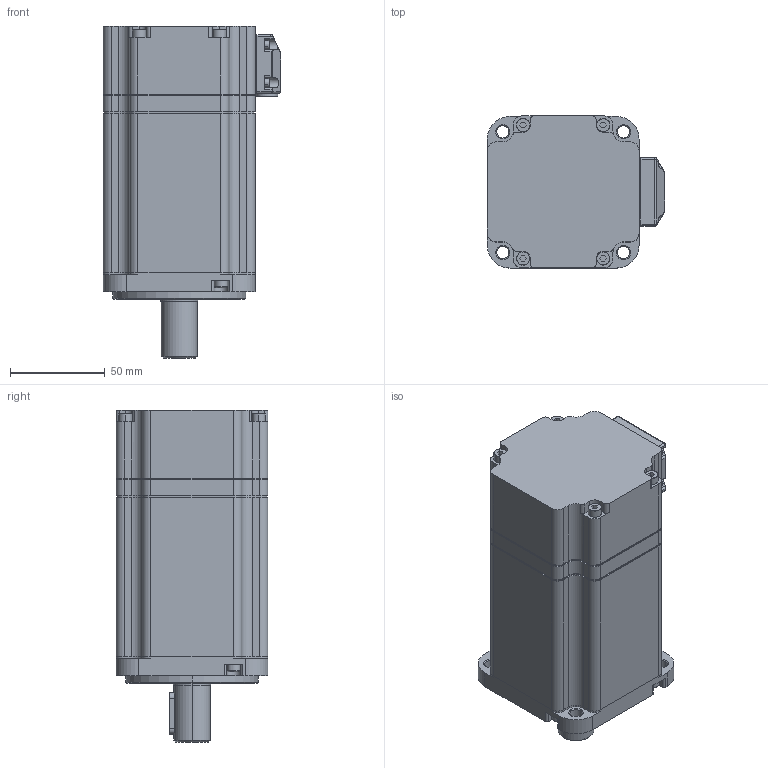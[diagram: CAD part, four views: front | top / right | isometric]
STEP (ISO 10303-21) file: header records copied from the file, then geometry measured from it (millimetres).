
FILE_DESCRIPTION (( 'STEP AP203' ), '1' );
FILE_NAME ('9.5622.STEP', '2020-08-10T04:49:11', ( 'K' ), ( 'K' ), 'SwSTEP 2.0', 'SolidWorks 2018', '' );
FILE_SCHEMA (( 'CONFIG_CONTROL_DESIGN' ));
Products named in the file (1): 9.5622
Bounding box: 93.5 x 80 x 175 mm (x, y, z)
Volume: 343666.8 mm3; surface area: 206741.7 mm2
Topology: 44 solids, 44 shells, 2082 faces, 5495 edges, 3551 vertices
Faces by surface type: plane 984, cylinder 910, cone 120, torus 59, sphere 9
Entity records: 65125 total; most frequent: DIRECTION 11698, CARTESIAN_POINT 11678, ORIENTED_EDGE 10888, EDGE_CURVE 5444, AXIS2_PLACEMENT_3D 4243, VERTEX_POINT 3551, LINE 3212, VECTOR 3212
